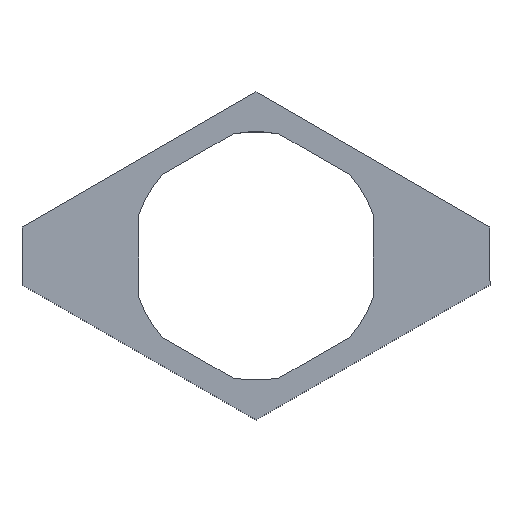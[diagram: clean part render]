
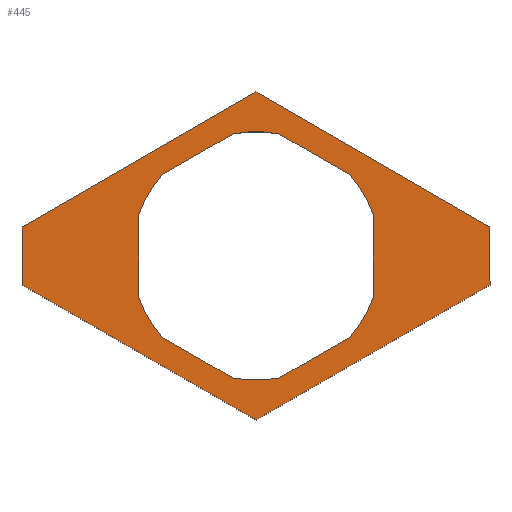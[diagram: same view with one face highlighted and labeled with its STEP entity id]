
A CAD part, top view. The second image highlights one B-rep face of the part: STEP entity #445.
In plain terms, the highlighted planar face has unit normal (0, 0, 1) as drawn and (0, 0, -1) by its records, which use the part's own axes.
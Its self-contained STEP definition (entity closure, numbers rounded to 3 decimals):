
#21=FACE_BOUND('',#88,.T.);
#25=CIRCLE('',#476,26.5);
#27=CIRCLE('',#479,26.5);
#29=CIRCLE('',#482,26.5);
#31=CIRCLE('',#485,26.5);
#33=CIRCLE('',#488,26.5);
#35=CIRCLE('',#494,26.5);
#63=FACE_OUTER_BOUND('',#87,.T.);
#87=EDGE_LOOP('',(#343,#344,#345,#346,#347,#348));
#88=EDGE_LOOP('',(#349,#350,#351,#352,#353,#354,#355,#356,#357,#358,#359,
#360));
#103=LINE('',#654,#147);
#107=LINE('',#663,#151);
#111=LINE('',#672,#155);
#120=LINE('',#710,#164);
#123=LINE('',#715,#167);
#125=LINE('',#718,#169);
#127=LINE('',#726,#171);
#128=LINE('',#728,#172);
#129=LINE('',#730,#173);
#130=LINE('',#732,#174);
#131=LINE('',#734,#175);
#132=LINE('',#735,#176);
#147=VECTOR('',#521,10.);
#151=VECTOR('',#527,10.);
#155=VECTOR('',#533,10.);
#164=VECTOR('',#574,10.);
#167=VECTOR('',#579,10.);
#169=VECTOR('',#583,10.);
#171=VECTOR('',#593,10.);
#172=VECTOR('',#594,10.);
#173=VECTOR('',#595,10.);
#174=VECTOR('',#596,10.);
#175=VECTOR('',#597,10.);
#176=VECTOR('',#598,10.);
#191=VERTEX_POINT('',#652);
#192=VERTEX_POINT('',#653);
#195=VERTEX_POINT('',#661);
#196=VERTEX_POINT('',#662);
#199=VERTEX_POINT('',#670);
#200=VERTEX_POINT('',#671);
#203=VERTEX_POINT('',#679);
#205=VERTEX_POINT('',#688);
#206=VERTEX_POINT('',#689);
#209=VERTEX_POINT('',#700);
#210=VERTEX_POINT('',#701);
#213=VERTEX_POINT('',#709);
#215=VERTEX_POINT('',#724);
#216=VERTEX_POINT('',#725);
#217=VERTEX_POINT('',#727);
#218=VERTEX_POINT('',#729);
#219=VERTEX_POINT('',#731);
#220=VERTEX_POINT('',#733);
#233=EDGE_CURVE('',#191,#192,#103,.T.);
#237=EDGE_CURVE('',#195,#196,#107,.T.);
#241=EDGE_CURVE('',#199,#200,#111,.T.);
#245=EDGE_CURVE('',#200,#203,#25,.F.);
#248=EDGE_CURVE('',#196,#199,#27,.F.);
#250=EDGE_CURVE('',#205,#206,#29,.F.);
#254=EDGE_CURVE('',#192,#195,#31,.F.);
#256=EDGE_CURVE('',#209,#210,#33,.F.);
#260=EDGE_CURVE('',#210,#213,#120,.T.);
#263=EDGE_CURVE('',#206,#209,#123,.T.);
#265=EDGE_CURVE('',#203,#205,#125,.T.);
#267=EDGE_CURVE('',#213,#191,#35,.F.);
#269=EDGE_CURVE('',#215,#216,#127,.T.);
#270=EDGE_CURVE('',#215,#217,#128,.T.);
#271=EDGE_CURVE('',#217,#218,#129,.T.);
#272=EDGE_CURVE('',#219,#218,#130,.T.);
#273=EDGE_CURVE('',#220,#219,#131,.T.);
#274=EDGE_CURVE('',#216,#220,#132,.T.);
#343=ORIENTED_EDGE('',*,*,#269,.F.);
#344=ORIENTED_EDGE('',*,*,#270,.T.);
#345=ORIENTED_EDGE('',*,*,#271,.T.);
#346=ORIENTED_EDGE('',*,*,#272,.F.);
#347=ORIENTED_EDGE('',*,*,#273,.F.);
#348=ORIENTED_EDGE('',*,*,#274,.F.);
#349=ORIENTED_EDGE('',*,*,#265,.T.);
#350=ORIENTED_EDGE('',*,*,#250,.T.);
#351=ORIENTED_EDGE('',*,*,#263,.T.);
#352=ORIENTED_EDGE('',*,*,#256,.T.);
#353=ORIENTED_EDGE('',*,*,#260,.T.);
#354=ORIENTED_EDGE('',*,*,#267,.T.);
#355=ORIENTED_EDGE('',*,*,#233,.T.);
#356=ORIENTED_EDGE('',*,*,#254,.T.);
#357=ORIENTED_EDGE('',*,*,#237,.T.);
#358=ORIENTED_EDGE('',*,*,#248,.T.);
#359=ORIENTED_EDGE('',*,*,#241,.T.);
#360=ORIENTED_EDGE('',*,*,#245,.T.);
#425=PLANE('',#496);
#445=ADVANCED_FACE('',(#63,#21),#425,.F.);
#476=AXIS2_PLACEMENT_3D('',#680,#539,#540);
#479=AXIS2_PLACEMENT_3D('',#685,#546,#547);
#482=AXIS2_PLACEMENT_3D('',#690,#552,#553);
#485=AXIS2_PLACEMENT_3D('',#697,#560,#561);
#488=AXIS2_PLACEMENT_3D('',#702,#566,#567);
#494=AXIS2_PLACEMENT_3D('',#721,#587,#588);
#496=AXIS2_PLACEMENT_3D('',#723,#591,#592);
#521=DIRECTION('',(0.,-1.,0.));
#527=DIRECTION('',(0.866,-0.5,0.));
#533=DIRECTION('',(0.866,0.5,0.));
#539=DIRECTION('center_axis',(0.,0.,-1.));
#540=DIRECTION('ref_axis',(-1.,0.,0.));
#546=DIRECTION('center_axis',(0.,0.,-1.));
#547=DIRECTION('ref_axis',(-1.,0.,0.));
#552=DIRECTION('center_axis',(0.,0.,-1.));
#553=DIRECTION('ref_axis',(-1.,0.,0.));
#560=DIRECTION('center_axis',(0.,0.,-1.));
#561=DIRECTION('ref_axis',(-1.,0.,0.));
#566=DIRECTION('center_axis',(0.,0.,-1.));
#567=DIRECTION('ref_axis',(-1.,0.,0.));
#574=DIRECTION('',(-0.866,-0.5,0.));
#579=DIRECTION('',(-0.866,0.5,0.));
#583=DIRECTION('',(0.,1.,0.));
#587=DIRECTION('center_axis',(0.,0.,-1.));
#588=DIRECTION('ref_axis',(-1.,0.,0.));
#591=DIRECTION('center_axis',(0.,0.,1.));
#592=DIRECTION('ref_axis',(1.,0.,0.));
#593=DIRECTION('',(0.866,0.5,0.));
#594=DIRECTION('',(-0.866,0.5,0.));
#595=DIRECTION('',(0.,1.,0.));
#596=DIRECTION('',(-0.866,-0.5,0.));
#597=DIRECTION('',(-0.866,0.5,0.));
#598=DIRECTION('',(0.,1.,0.));
#652=CARTESIAN_POINT('',(-25.,10.989,-47.704));
#653=CARTESIAN_POINT('',(-25.,-6.589,-47.704));
#654=CARTESIAN_POINT('',(-25.,9.345,-47.704));
#661=CARTESIAN_POINT('',(-20.112,-15.056,-47.704));
#662=CARTESIAN_POINT('',(-4.888,-23.845,-47.704));
#663=CARTESIAN_POINT('',(-18.687,-15.878,-47.704));
#670=CARTESIAN_POINT('',(4.888,-23.845,-47.704));
#671=CARTESIAN_POINT('',(20.112,-15.056,-47.704));
#672=CARTESIAN_POINT('',(6.312,-23.023,-47.704));
#679=CARTESIAN_POINT('',(25.,-6.589,-47.704));
#680=CARTESIAN_POINT('Origin',(0.,2.2,-47.704));
#685=CARTESIAN_POINT('Origin',(0.,2.2,-47.704));
#688=CARTESIAN_POINT('',(25.,10.989,-47.704));
#689=CARTESIAN_POINT('',(20.112,19.456,-47.704));
#690=CARTESIAN_POINT('Origin',(0.,2.2,-47.704));
#697=CARTESIAN_POINT('Origin',(0.,2.2,-47.704));
#700=CARTESIAN_POINT('',(4.889,28.245,-47.704));
#701=CARTESIAN_POINT('',(-4.889,28.245,-47.704));
#702=CARTESIAN_POINT('Origin',(0.,2.2,-47.704));
#709=CARTESIAN_POINT('',(-20.112,19.456,-47.704));
#710=CARTESIAN_POINT('',(-6.313,27.423,-47.704));
#715=CARTESIAN_POINT('',(18.688,20.278,-47.704));
#718=CARTESIAN_POINT('',(25.,-4.945,-47.704));
#721=CARTESIAN_POINT('Origin',(0.,2.2,-47.704));
#723=CARTESIAN_POINT('Origin',(0.,2.2,-47.704));
#724=CARTESIAN_POINT('',(0.,-32.8,-47.704));
#725=CARTESIAN_POINT('',(49.911,-3.984,-47.704));
#726=CARTESIAN_POINT('',(0.,-32.8,-47.704));
#727=CARTESIAN_POINT('',(-49.911,-3.984,-47.704));
#728=CARTESIAN_POINT('',(-46.725,-5.823,-47.704));
#729=CARTESIAN_POINT('',(-49.911,8.384,-47.704));
#730=CARTESIAN_POINT('',(-49.911,-3.984,-47.704));
#731=CARTESIAN_POINT('',(0.,37.2,-47.704));
#732=CARTESIAN_POINT('',(0.,37.2,-47.704));
#733=CARTESIAN_POINT('',(49.911,8.384,-47.704));
#734=CARTESIAN_POINT('',(49.911,8.384,-47.704));
#735=CARTESIAN_POINT('',(49.911,-3.984,-47.704));
